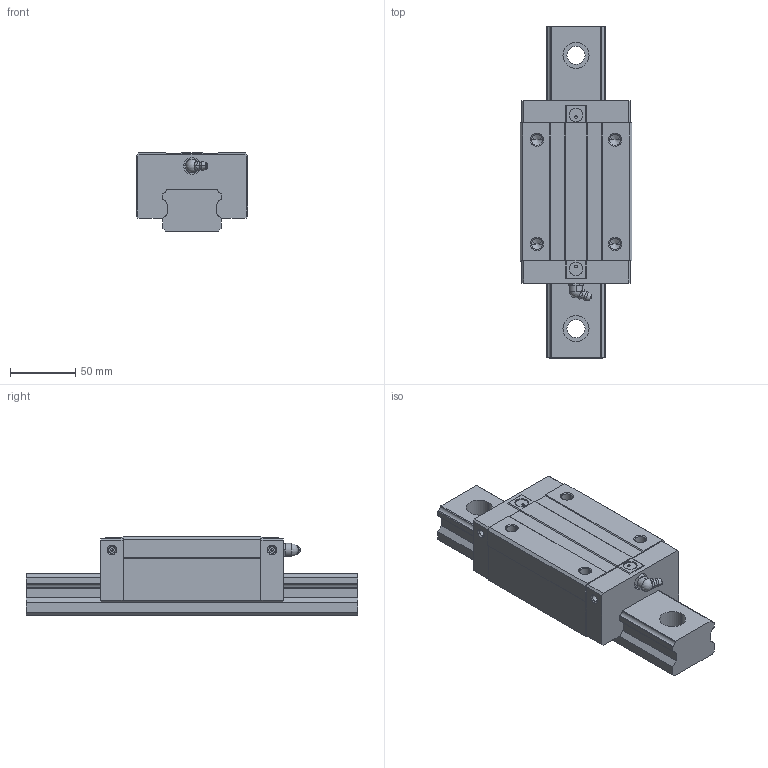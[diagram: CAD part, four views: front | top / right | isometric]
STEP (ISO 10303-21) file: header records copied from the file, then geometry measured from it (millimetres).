
FILE_DESCRIPTION((''),'1');
FILE_NAME(' ',' ',(''),(''),'ACIS Interop R16','Kubotek KeyCreator V6.5.2 (0407)',' ');
FILE_SCHEMA(('CONFIG_CONTROL_DESIGN'));
Length unit declared in the file: millimetre
Products named in the file (3): 1; 2; 3
Bounding box: 86 x 255 x 60 mm (x, y, z)
Volume: 780072.7 mm3; surface area: 100619.9 mm2
Topology: 3 solids, 3 shells, 225 faces, 582 edges, 377 vertices
Faces by surface type: plane 110, cylinder 74, cone 26, torus 10, sphere 3, bspline 2
Entity records: 7116 total; most frequent: CARTESIAN_POINT 1367, DIRECTION 1216, ORIENTED_EDGE 1144, EDGE_CURVE 572, AXIS2_PLACEMENT_3D 442, VERTEX_POINT 377, LINE 332, VECTOR 332
